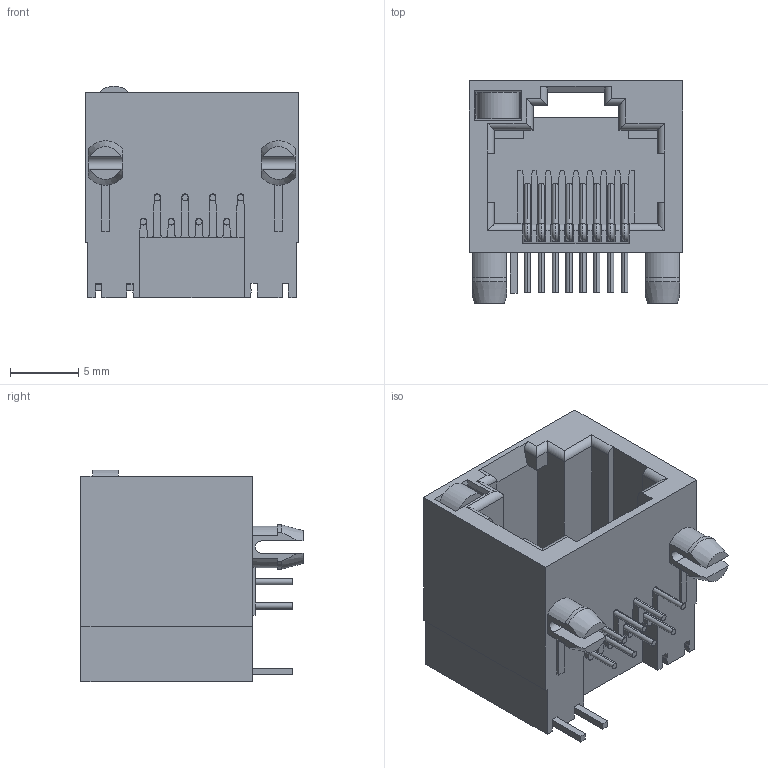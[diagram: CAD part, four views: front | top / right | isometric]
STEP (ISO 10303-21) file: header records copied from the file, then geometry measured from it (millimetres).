
FILE_DESCRIPTION((''),'2;1');
FILE_NAME('56S-LED-1X1-8P8C-EMI_ASM','2019-05-21T10:15:35',('RD002'),(''),'CREO PARAMETRIC BY PTC INC, 2018260','CREO PARAMETRIC BY PTC INC, 2018260','');
FILE_SCHEMA(('CONFIG_CONTROL_DESIGN','GEOMETRIC_VALIDATION_PROPERTIES_MIM'));
Length unit declared in the file: millimetre
Products named in the file (4): 56LED-1X100; 56-PIN0; 56-LED0; 56S-LED-1X1-8P8C-EMI_ASM
Assembly tree (3 placements, depth 2):
  56S-LED-1X1-8P8C-EMI_ASM
    56LED-1X100
    56-PIN0
    56-LED0
Bounding box: 15.7 x 16.3 x 15.55 mm (x, y, z)
Volume: 1446.5 mm3; surface area: 2899.8 mm2
Topology: 10 solids, 10 shells, 562 faces, 1514 edges, 961 vertices
Faces by surface type: plane 389, cylinder 129, torus 40, cone 4
Entity records: 17890 total; most frequent: CARTESIAN_POINT 3522, ORIENTED_EDGE 3028, DIRECTION 2833, EDGE_CURVE 1514, VECTOR 1165, LINE 1165, VERTEX_POINT 961, AXIS2_PLACEMENT_3D 834
